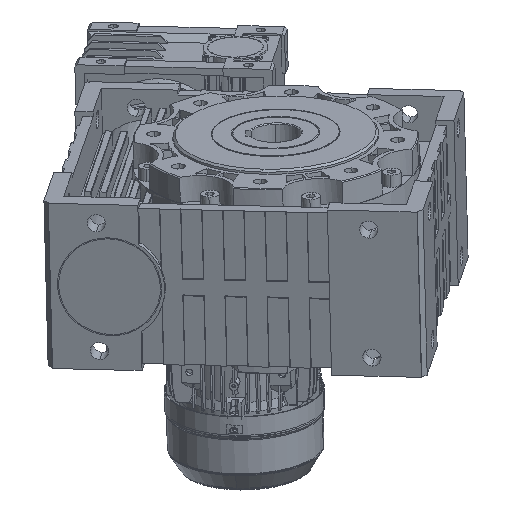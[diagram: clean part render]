
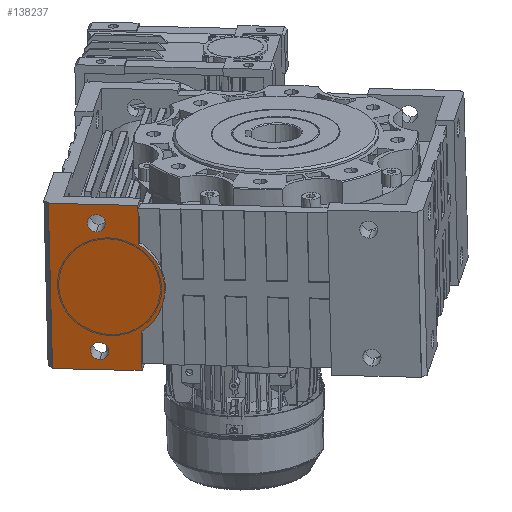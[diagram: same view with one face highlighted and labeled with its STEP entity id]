
A CAD part, left-side view. The second image highlights one B-rep face of the part: STEP entity #138237.
In plain terms, the highlighted planar face has unit normal (-0.923, 0.126, -0.363) as drawn and (-1, 0, 0) by its records, which use the part's own axes.
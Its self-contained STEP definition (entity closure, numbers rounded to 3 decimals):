
#102 = EDGE_LOOP ( 'NONE', ( #129038, #129039 ) ) ;
#12984 = AXIS2_PLACEMENT_3D ( 'NONE', #42262, #42263, #42265 ) ;
#37860 = CIRCLE ( 'NONE', #12984, 8. ) ;
#40494 = CARTESIAN_POINT ( 'NONE',  ( -395.5, 10., 52. ) ) ;
#40500 = CARTESIAN_POINT ( 'NONE',  ( -395.5, 10., 68. ) ) ;
#40542 = CARTESIAN_POINT ( 'NONE',  ( -395.5, 10., -52. ) ) ;
#40550 = CARTESIAN_POINT ( 'NONE',  ( -395.5, 10., -68. ) ) ;
#40679 = CARTESIAN_POINT ( 'NONE',  ( -395.5, 52.12, 77.5 ) ) ;
#40693 = CARTESIAN_POINT ( 'NONE',  ( -395.5, 52.12, -77.5 ) ) ;
#41025 = CARTESIAN_POINT ( 'NONE',  ( -395.5, -27., -77.5 ) ) ;
#41026 = CARTESIAN_POINT ( 'NONE',  ( -395.5, -27., 40.74 ) ) ;
#41031 = CARTESIAN_POINT ( 'NONE',  ( -395.5, -27., 77.5 ) ) ;
#41033 = CARTESIAN_POINT ( 'NONE',  ( -395.5, -27., -40.74 ) ) ;
#42067 = EDGE_CURVE ( 'NONE', #104806, #104808, #92779, .T. ) ;
#42262 = CARTESIAN_POINT ( 'NONE',  ( -395.5, 10., 60. ) ) ;
#42263 = DIRECTION ( 'NONE',  ( 1., 0., 0. ) ) ;
#42265 = DIRECTION ( 'NONE',  ( 0., 0., 1. ) ) ;
#42491 = EDGE_CURVE ( 'NONE', #105230, #105268, #93346, .T. ) ;
#45015 = EDGE_CURVE ( 'NONE', #104808, #104806, #113846, .T. ) ;
#45019 = EDGE_CURVE ( 'NONE', #105230, #106244, #113849, .T. ) ;
#45022 = EDGE_CURVE ( 'NONE', #105268, #106232, #113852, .T. ) ;
#45025 = EDGE_CURVE ( 'NONE', #106249, #106232, #113855, .T. ) ;
#45030 = EDGE_CURVE ( 'NONE', #106241, #106249, #113859, .T. ) ;
#45033 = EDGE_CURVE ( 'NONE', #106244, #106241, #113836, .T. ) ;
#45036 = EDGE_CURVE ( 'NONE', #104667, #104659, #113865, .T. ) ;
#76400 = EDGE_LOOP ( 'NONE', ( #129040, #129041, #129042, #129043, #129044, #129045 ) ) ;
#92603 = CARTESIAN_POINT ( 'NONE',  ( -395.5, 10., -60. ) ) ;
#92604 = DIRECTION ( 'NONE',  ( 1., 0., 0. ) ) ;
#92606 = DIRECTION ( 'NONE',  ( 0., 0., 1. ) ) ;
#92779 = CIRCLE ( 'NONE', #107835, 8. ) ;
#93012 = AXIS2_PLACEMENT_3D ( 'NONE', #119049, #119043, #119056 ) ;
#93346 = LINE ( 'NONE', #102528, #93349 ) ;
#93349 = VECTOR ( 'NONE', #102526, 1000. ) ;
#102526 = DIRECTION ( 'NONE',  ( 0., 0., -1. ) ) ;
#102528 = CARTESIAN_POINT ( 'NONE',  ( -395.5, 52.12, 0. ) ) ;
#104659 = VERTEX_POINT ( 'NONE', #40500 ) ;
#104667 = VERTEX_POINT ( 'NONE', #40494 ) ;
#104806 = VERTEX_POINT ( 'NONE', #40542 ) ;
#104808 = VERTEX_POINT ( 'NONE', #40550 ) ;
#105230 = VERTEX_POINT ( 'NONE', #40679 ) ;
#105268 = VERTEX_POINT ( 'NONE', #40693 ) ;
#106232 = VERTEX_POINT ( 'NONE', #41025 ) ;
#106241 = VERTEX_POINT ( 'NONE', #41026 ) ;
#106244 = VERTEX_POINT ( 'NONE', #41031 ) ;
#106249 = VERTEX_POINT ( 'NONE', #41033 ) ;
#107835 = AXIS2_PLACEMENT_3D ( 'NONE', #92603, #92604, #92606 ) ;
#108216 = AXIS2_PLACEMENT_3D ( 'NONE', #115265, #115266, #115267 ) ;
#108219 = AXIS2_PLACEMENT_3D ( 'NONE', #115274, #115275, #115276 ) ;
#108221 = AXIS2_PLACEMENT_3D ( 'NONE', #115280, #115281, #115282 ) ;
#111500 = FACE_BOUND ( 'NONE', #102, .T. ) ;
#111524 = FACE_BOUND ( 'NONE', #145919, .T. ) ;
#111534 = FACE_OUTER_BOUND ( 'NONE', #76400, .T. ) ;
#113836 = LINE ( 'NONE', #115273, #113867 ) ;
#113846 = CIRCLE ( 'NONE', #108216, 8. ) ;
#113849 = LINE ( 'NONE', #115257, #113854 ) ;
#113852 = LINE ( 'NONE', #115268, #113857 ) ;
#113854 = VECTOR ( 'NONE', #115258, 1000. ) ;
#113855 = LINE ( 'NONE', #115270, #113860 ) ;
#113857 = VECTOR ( 'NONE', #115269, 1000. ) ;
#113859 = CIRCLE ( 'NONE', #108219, 48.875 ) ;
#113860 = VECTOR ( 'NONE', #115271, 1000. ) ;
#113865 = CIRCLE ( 'NONE', #108221, 8. ) ;
#113867 = VECTOR ( 'NONE', #115264, 1000. ) ;
#115257 = CARTESIAN_POINT ( 'NONE',  ( -395.5, -110.5, 77.5 ) ) ;
#115258 = DIRECTION ( 'NONE',  ( 0., -1., 0. ) ) ;
#115264 = DIRECTION ( 'NONE',  ( 0., 0., -1. ) ) ;
#115265 = CARTESIAN_POINT ( 'NONE',  ( -395.5, 10., -60. ) ) ;
#115266 = DIRECTION ( 'NONE',  ( 1., 0., 0. ) ) ;
#115267 = DIRECTION ( 'NONE',  ( 0., 0., 1. ) ) ;
#115268 = CARTESIAN_POINT ( 'NONE',  ( -395.5, -110.5, -77.5 ) ) ;
#115269 = DIRECTION ( 'NONE',  ( 0., -1., 0. ) ) ;
#115270 = CARTESIAN_POINT ( 'NONE',  ( -395.5, -27., -72.85 ) ) ;
#115271 = DIRECTION ( 'NONE',  ( 0., 0., -1. ) ) ;
#115273 = CARTESIAN_POINT ( 'NONE',  ( -395.5, -27., -72.85 ) ) ;
#115274 = CARTESIAN_POINT ( 'NONE',  ( -395.5, 0., 0. ) ) ;
#115275 = DIRECTION ( 'NONE',  ( 1., 0., 0. ) ) ;
#115276 = DIRECTION ( 'NONE',  ( 0., 0., 1. ) ) ;
#115280 = CARTESIAN_POINT ( 'NONE',  ( -395.5, 10., 60. ) ) ;
#115281 = DIRECTION ( 'NONE',  ( 1., 0., 0. ) ) ;
#115282 = DIRECTION ( 'NONE',  ( 0., 0., 1. ) ) ;
#119043 = DIRECTION ( 'NONE',  ( -1., 0., 0. ) ) ;
#119049 = CARTESIAN_POINT ( 'NONE',  ( -395.5, 0., 0. ) ) ;
#119053 = PLANE ( 'NONE',  #93012 ) ;
#119056 = DIRECTION ( 'NONE',  ( 0., -1., 0. ) ) ;
#124281 = EDGE_CURVE ( 'NONE', #104659, #104667, #37860, .T. ) ;
#129038 = ORIENTED_EDGE ( 'NONE', *, *, #42067, .T. ) ;
#129039 = ORIENTED_EDGE ( 'NONE', *, *, #45015, .T. ) ;
#129040 = ORIENTED_EDGE ( 'NONE', *, *, #45019, .F. ) ;
#129041 = ORIENTED_EDGE ( 'NONE', *, *, #42491, .T. ) ;
#129042 = ORIENTED_EDGE ( 'NONE', *, *, #45022, .T. ) ;
#129043 = ORIENTED_EDGE ( 'NONE', *, *, #45025, .F. ) ;
#129044 = ORIENTED_EDGE ( 'NONE', *, *, #45030, .F. ) ;
#129045 = ORIENTED_EDGE ( 'NONE', *, *, #45033, .F. ) ;
#129046 = ORIENTED_EDGE ( 'NONE', *, *, #124281, .T. ) ;
#129047 = ORIENTED_EDGE ( 'NONE', *, *, #45036, .T. ) ;
#138237 = ADVANCED_FACE ( 'NONE', ( #111500, #111534, #111524 ), #119053, .T. ) ;
#145919 = EDGE_LOOP ( 'NONE', ( #129046, #129047 ) ) ;
